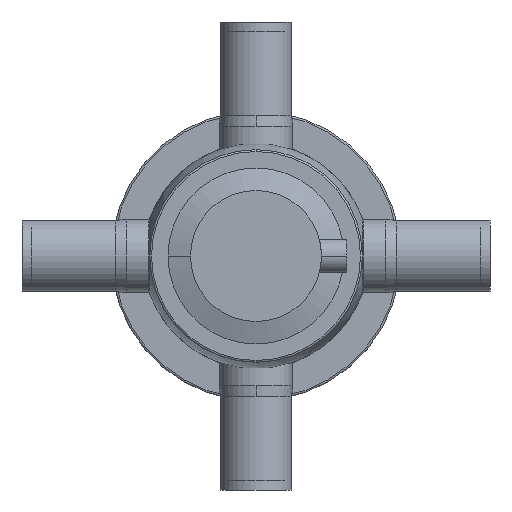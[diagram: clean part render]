
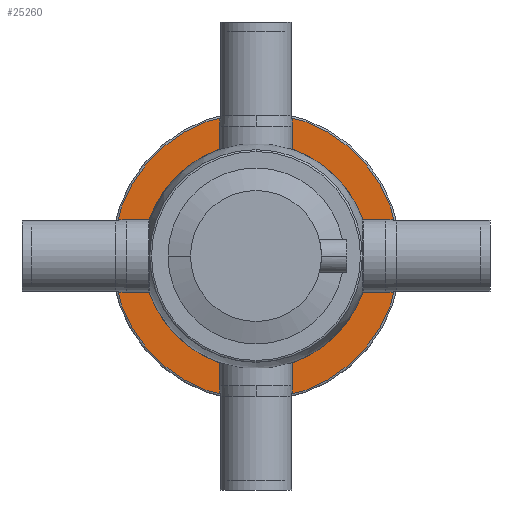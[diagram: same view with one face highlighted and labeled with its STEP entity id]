
A CAD part, front view. The second image highlights one B-rep face of the part: STEP entity #25260.
In plain terms, the highlighted planar face has unit normal (0, -1, 0).
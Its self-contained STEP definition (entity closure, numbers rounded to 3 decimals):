
#23260=CARTESIAN_POINT('',(58.05,6.,0.));
#23270=VERTEX_POINT('',#23260);
#23300=CARTESIAN_POINT('',(0.,6.,0.));
#23310=DIRECTION('',(0.,1.,0.));
#23320=DIRECTION('',(1.,0.,0.));
#23330=AXIS2_PLACEMENT_3D('',#23300,#23310,#23320);
#23340=CIRCLE('',#23330,58.05);
#23350=CARTESIAN_POINT('',(-58.05,6.,0.));
#23360=VERTEX_POINT('',#23350);
#23370=EDGE_CURVE('',#23270,#23360,#23340,.T.);
#25010=CARTESIAN_POINT('',(66.7,6.,0.));
#25020=DIRECTION('',(-0.,1.,0.));
#25030=DIRECTION('',(1.,0.,0.));
#25040=AXIS2_PLACEMENT_3D('',#25010,#25020,#25030);
#25050=PLANE('',#25040);
#25060=ORIENTED_EDGE('',*,*,#23370,.T.);
#25070=EDGE_CURVE('',#23360,#23270,#23340,.T.);
#25080=ORIENTED_EDGE('',*,*,#25070,.T.);
#25090=EDGE_LOOP('',(#25080,#25060));
#25100=FACE_BOUND('',#25090,.T.);
#25110=CARTESIAN_POINT('',(0.,6.,0.));
#25120=DIRECTION('',(0.,1.,0.));
#25130=DIRECTION('',(1.,0.,0.));
#25140=AXIS2_PLACEMENT_3D('',#25110,#25120,#25130);
#25150=CIRCLE('',#25140,76.5);
#25160=CARTESIAN_POINT('',(-76.5,6.,0.));
#25170=VERTEX_POINT('',#25160);
#25180=CARTESIAN_POINT('',(76.5,6.,0.));
#25190=VERTEX_POINT('',#25180);
#25200=EDGE_CURVE('',#25170,#25190,#25150,.T.);
#25210=ORIENTED_EDGE('',*,*,#25200,.F.);
#25220=EDGE_CURVE('',#25190,#25170,#25150,.T.);
#25230=ORIENTED_EDGE('',*,*,#25220,.F.);
#25240=EDGE_LOOP('',(#25230,#25210));
#25250=FACE_OUTER_BOUND('',#25240,.T.);
#25260=ADVANCED_FACE('',(#25100,#25250),#25050,.F.);
